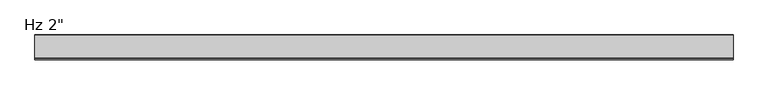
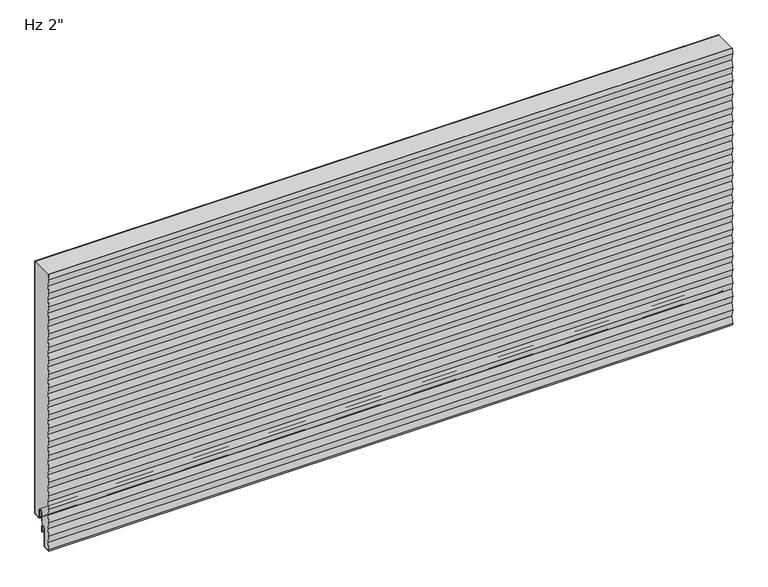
"""IFC4 building model written with IfcOpenShell, lengths in millimetres: plate geometry."""

import ifcopenshell
import ifcopenshell.guid

model = None  # the IFC model being written
_history = None  # IfcOwnerHistory: only IFC2X3 demands one
_inside = {}  # id of a spatial element -> (the spatial element, [elements in it])
_under = {}  # id of a project, library or spatial element -> (it, [spatial elements below it])
_declared = {}  # id of a project -> (the project, [libraries it declares])
_typed = {}  # id of a type object -> (the type object, [elements of that type])
_made_of = {}  # id of a material, layer set ... -> (it, [elements and type objects made of it])


def new_model(schema):
    """Start an empty IFC model of exactly this schema.

    Asked for "IFC4X3", IfcOpenShell would pick the latest addendum, in which some entities
    have other attributes; the version numbers below select the first issue.
    IFC2X3 requires an IfcOwnerHistory on every rooted entity: one is made here for all.
    """
    global model, _history
    if schema == "IFC4X3":
        model = ifcopenshell.file(schema_version=(4, 3, 0, 0))
    else:
        model = ifcopenshell.file(schema=schema)
    _inside.clear()
    _under.clear()
    _declared.clear()
    _typed.clear()
    _made_of.clear()
    _history = None
    if model.schema == "IFC2X3":
        org = make("IfcOrganization", Name="unknown")
        user = make(
            "IfcPersonAndOrganization",
            ThePerson=make("IfcPerson", FamilyName="unknown"),
            TheOrganization=org,
        )
        app = make(
            "IfcApplication",
            ApplicationDeveloper=org,
            Version="unknown",
            ApplicationFullName="unknown",
            ApplicationIdentifier="unknown",
        )
        _history = make(
            "IfcOwnerHistory",
            OwningUser=user,
            OwningApplication=app,
            ChangeAction="ADDED",
            CreationDate=0,
        )
    return model


def make(cls, **values):
    """One entity of the class cls with the attributes given. An attribute that is None is left unset."""
    return model.create_entity(
        cls, **{name: value for name, value in values.items() if value is not None}
    )


def rooted(cls, **values):
    """An entity with a GlobalId (a new one), such as an element, a storey or a relation."""
    return make(cls, GlobalId=ifcopenshell.guid.new(), OwnerHistory=_history, **values)


def si_unit(unit_type, name, prefix=None):
    """IfcSIUnit, for example si_unit("LENGTHUNIT", "METRE", prefix="MILLI")."""
    return make("IfcSIUnit", UnitType=unit_type, Prefix=prefix, Name=name)


def assignment(units):
    """IfcUnitAssignment: the units of a project."""
    return None if units is None else make("IfcUnitAssignment", Units=units)


def point(xyz):
    """IfcCartesianPoint."""
    return None if xyz is None else make("IfcCartesianPoint", Coordinates=xyz)


def direction(xyz):
    """IfcDirection."""
    return None if xyz is None else make("IfcDirection", DirectionRatios=xyz)


def frame(location, z_axis=None, x_axis=None):
    """IfcAxis2Placement3D, a coordinate frame: its origin and axes. An axis left out is left unset."""
    return make(
        "IfcAxis2Placement3D",
        Location=point(location),
        Axis=direction(z_axis),
        RefDirection=direction(x_axis),
    )


def frame_2d(location, x_axis=None):
    """IfcAxis2Placement2D, a coordinate frame in the plane: its origin and x axis."""
    return make(
        "IfcAxis2Placement2D", Location=point(location), RefDirection=direction(x_axis)
    )


def origin():
    """The frame at (0, 0, 0) with its axes left unset."""
    return frame((0.0, 0.0, 0.0))


def place(relative_to, where):
    """IfcLocalPlacement: puts the frame where relative to a parent placement (None: the world)."""
    return make(
        "IfcLocalPlacement", PlacementRelTo=relative_to, RelativePlacement=where
    )


def context(
    kind, dimensions, precision=None, world=None, true_north=None, identifier=None
):
    """IfcGeometricRepresentationContext, for example the 3D "Model" context."""
    return make(
        "IfcGeometricRepresentationContext",
        ContextIdentifier=identifier,
        ContextType=kind,
        CoordinateSpaceDimension=dimensions,
        Precision=precision,
        WorldCoordinateSystem=world,
        TrueNorth=true_north,
    )


def project(units=None, contexts=None):
    """IfcProject with its units and contexts."""
    return rooted(
        "IfcProject",
        Name="project",
        RepresentationContexts=contexts,
        UnitsInContext=assignment(units),
    )


def spatial(cls, under=None, at=None, **own):
    """A site, building, storey or space (cls), placed at a placement, below another one or the project."""
    s = rooted(cls, ObjectPlacement=at, **own)
    if under is not None:
        _under.setdefault(under.id(), (under, []))[1].append(s)
    return s


def polyline(points):
    """IfcPolyline through the points."""
    return make("IfcPolyline", Points=[point(p) for p in points])


def circle_curve(where, radius):
    """IfcCircle in the frame where."""
    return make("IfcCircle", Position=where, Radius=radius)


def trimmed(basis, trim1, trim2, sense, master):
    """IfcTrimmedCurve: the piece of a basis curve between two trims."""
    return make(
        "IfcTrimmedCurve",
        BasisCurve=basis,
        Trim1=trim1,
        Trim2=trim2,
        SenseAgreement=sense,
        MasterRepresentation=master,
    )


def segment(curve, same_sense, transition):
    """IfcCompositeCurveSegment."""
    return make(
        "IfcCompositeCurveSegment",
        Transition=transition,
        SameSense=same_sense,
        ParentCurve=curve,
    )


def composite_curve(segments, self_intersect=None):
    """IfcCompositeCurve: segments joined end to end."""
    return make("IfcCompositeCurve", Segments=segments, SelfIntersect=self_intersect)


def outline(outer, holes=None, kind="AREA"):
    """IfcArbitraryClosedProfileDef: a profile drawn as a closed curve; with holes, ...WithVoids."""
    if holes is None:
        return make("IfcArbitraryClosedProfileDef", ProfileType=kind, OuterCurve=outer)
    return make(
        "IfcArbitraryProfileDefWithVoids",
        ProfileType=kind,
        OuterCurve=outer,
        InnerCurves=holes,
    )


def extrude(swept, where, along, depth):
    """IfcExtrudedAreaSolid: the profile swept, set in the frame where, extruded along a direction by depth."""
    return make(
        "IfcExtrudedAreaSolid",
        SweptArea=swept,
        Position=where,
        ExtrudedDirection=direction(along),
        Depth=depth,
    )


def shape(context_of_items, identifier, shape_type, items):
    """IfcShapeRepresentation: the items that make up one representation, for example the "Body"."""
    return make(
        "IfcShapeRepresentation",
        ContextOfItems=context_of_items,
        RepresentationIdentifier=identifier,
        RepresentationType=shape_type,
        Items=items,
    )


def source(mapping_origin, context_of_items, identifier, shape_type, items):
    """IfcRepresentationMap: a shape defined once, which mapped items show again and again."""
    return make(
        "IfcRepresentationMap",
        MappingOrigin=mapping_origin,
        MappedRepresentation=shape(context_of_items, identifier, shape_type, items),
    )


def transform(
    local_origin,
    x_axis=None,
    y_axis=None,
    z_axis=None,
    scale=None,
    scale2=None,
    scale3=None,
    uniform=True,
):
    """IfcCartesianTransformationOperator3D, or its non-uniform kind. x_axis, y_axis, z_axis: its Axis1, 2, 3."""
    if uniform:
        return make(
            "IfcCartesianTransformationOperator3D",
            Axis1=direction(x_axis),
            Axis2=direction(y_axis),
            LocalOrigin=point(local_origin),
            Scale=scale,
            Axis3=direction(z_axis),
        )
    return make(
        "IfcCartesianTransformationOperator3DnonUniform",
        Axis1=direction(x_axis),
        Axis2=direction(y_axis),
        LocalOrigin=point(local_origin),
        Scale=scale,
        Axis3=direction(z_axis),
        Scale2=scale2,
        Scale3=scale3,
    )


def mapped(mapping_source, mapping_target):
    """IfcMappedItem: shows the shape of a source again, moved by a transform."""
    return make(
        "IfcMappedItem", MappingSource=mapping_source, MappingTarget=mapping_target
    )


def made_of(thing, what):
    """Note that an element or type object is made of a material, layer set ...; save() writes the relation."""
    if what is not None:
        _made_of.setdefault(what.id(), (what, []))[1].append(thing)
    return thing


def element(
    cls,
    number,
    at=None,
    inside=None,
    cuts=None,
    type_object=None,
    material=None,
    context=None,
    identifier="Body",
    shape_type=None,
    held_by="IfcProductDefinitionShape",
    body=None,
    shapes=None,
    **own,
):
    """One element of the class cls, such as IfcWall. Its Tag is "e" and its number.

    at: its placement. inside: the storey or other place that contains it. cuts: it is an
    opening in that element (IfcRelVoidsElement). A single representation is given by context,
    identifier, shape_type and body (its items); several are given by shapes. held_by: the class
    of the entity that holds the representations. save() writes the other relations.
    """
    e = rooted(cls, Tag="e%d" % number, ObjectPlacement=at, **own)
    if body is not None:
        shapes = [shape(context, identifier, shape_type, body)]
    if shapes is not None:
        e.Representation = make(held_by, Representations=shapes)
    if inside is not None:
        _inside.setdefault(inside.id(), (inside, []))[1].append(e)
    if cuts is not None:
        rooted(
            "IfcRelVoidsElement", RelatingBuildingElement=cuts, RelatedOpeningElement=e
        )
    if type_object is not None:
        _typed.setdefault(type_object.id(), (type_object, []))[1].append(e)
    return made_of(e, material)


def aggregate(whole, parts):
    """IfcRelAggregates: a whole, such as a stair, and the parts it consists of."""
    return rooted("IfcRelAggregates", RelatingObject=whole, RelatedObjects=parts)


def save(model, path):
    """Write the relations noted so far, then the file.

    IfcRelAggregates (storeys below a building ...), IfcRelContainedInSpatialStructure (elements
    in a storey), IfcRelDefinesByType, IfcRelAssociatesMaterial and IfcRelDeclares: one each for
    every whole, place, type object, material and project.
    """
    for whole, parts in _under.values():
        aggregate(whole, parts)
    for where, things in _inside.values():
        rooted(
            "IfcRelContainedInSpatialStructure",
            RelatedElements=things,
            RelatingStructure=where,
        )
    for kind, things in _typed.values():
        rooted("IfcRelDefinesByType", RelatedObjects=things, RelatingType=kind)
    for what, things in _made_of.values():
        rooted("IfcRelAssociatesMaterial", RelatedObjects=things, RelatingMaterial=what)
    for by, libraries in _declared.values():
        rooted("IfcRelDeclares", RelatingContext=by, RelatedDefinitions=libraries)
    model.write(path)


def plate_64ede34e(model_context):
    return source(origin(), model_context, "Body", "SweptSolid", [
        extrude(outline(composite_curve([segment(polyline([(-50.9378194, 560.7488175), (-49.2656302, 571.2), (-1.0, 571.2), (-1.0, 3.175)]), True, "CONTINUOUS"), segment(trimmed(circle_curve(frame_2d((-2.38125, 3.175)), 1.38125), [point((-1.0, 3.175))], [point((-2.38125, 1.79375))], False, "CARTESIAN"), True, "CONTINUOUS"), segment(polyline([(-2.38125, 1.79375), (-15.08125, 1.79375)]), True, "CONTINUOUS"), segment(trimmed(circle_curve(frame_2d((-15.08125, 3.175)), 1.38125), [point((-15.08125, 1.79375))], [point((-16.4625, 3.175))], False, "CARTESIAN"), True, "CONTINUOUS"), segment(polyline([(-16.4625, 3.175), (-16.4625, 19.05)]), True, "CONTINUOUS"), segment(trimmed(circle_curve(frame_2d((-21.43125, 19.05)), 4.96875), [point((-16.4625, 19.05))], [point((-26.4, 19.05))], True, "CARTESIAN"), True, "CONTINUOUS"), segment(polyline([(-26.4, 19.05), (-26.4, -6.9375), (-30.95625, -6.9375)]), True, "CONTINUOUS"), segment(trimmed(circle_curve(frame_2d((-30.95625, -11.90625)), 4.96875), [point((-30.95625, -6.9375))], [point((-35.925, -11.90625))], True, "CARTESIAN"), True, "CONTINUOUS"), segment(polyline([(-35.925, -11.90625), (-35.925, -50.0895546)]), True, "CONTINUOUS"), segment(trimmed(circle_curve(frame_2d((-37.30625, -50.0895546)), 1.38125), [point((-35.925, -50.0895546))], [point((-37.233961, -51.4689117))], False, "CARTESIAN"), True, "CONTINUOUS"), segment(polyline([(-37.233961, -51.4689117), (-50.4085109, -52.1593606), (-50.9378194, -48.8511825), (-48.4994194, -33.6111825), (-50.9378194, -18.3711825), (-48.4994194, -3.1311825), (-50.9378194, 12.1088175), (-48.4994194, 27.3488175), (-50.9378194, 42.5888175), (-48.4994194, 57.8288175), (-50.9378194, 73.0688175), (-48.4994194, 88.3088175), (-50.9378194, 103.5488175), (-48.4994194, 118.7888175), (-50.9378194, 134.0288175), (-48.4994194, 149.2688175), (-50.9378194, 164.5088175), (-48.4994194, 179.7488175), (-50.9378194, 194.9888175), (-48.4994194, 210.2288175), (-50.9378194, 225.4688175), (-48.4994194, 240.7088175), (-50.9378194, 255.9488175), (-48.4994194, 271.1888175), (-50.9378194, 286.4288175), (-48.4994194, 301.6688175), (-50.9378194, 316.9088175), (-48.4994194, 332.1488175), (-50.9378194, 347.3888175), (-48.4994194, 362.6288175), (-50.9378194, 377.8688175), (-48.4994194, 393.1088175), (-50.9378194, 408.3488175), (-48.4994194, 423.5888175), (-50.9378194, 438.8288175), (-48.4994194, 454.0688175), (-50.9378194, 469.3088175), (-48.4994194, 484.5488175), (-50.9378194, 499.7888175), (-48.4994194, 515.0288175), (-50.9378194, 530.2688175), (-48.4994194, 545.5088175), (-50.9378194, 560.7488175)]), True, "CONTINUOUS")], self_intersect=False)), frame((-730.0, 0.0, 0.0), z_axis=(1.0, 0.0, 0.0), x_axis=(0.0, 1.0, 0.0)), (0.0, 0.0, 1.0), 1460.0),
        extrude(outline(composite_curve([segment(polyline([(-25.4, 0.79375), (-26.4, 0.79375), (-26.4, 19.05)]), True, "CONTINUOUS"), segment(trimmed(circle_curve(frame_2d((-21.43125, 19.05)), 4.96875), [point((-26.4, 19.05))], [point((-16.4625, 19.05))], False, "CARTESIAN"), True, "CONTINUOUS"), segment(polyline([(-16.4625, 19.05), (-16.4625, 3.175)]), True, "CONTINUOUS"), segment(trimmed(circle_curve(frame_2d((-15.08125, 3.175)), 1.38125), [point((-16.4625, 3.175))], [point((-15.08125, 1.79375))], True, "CARTESIAN"), True, "CONTINUOUS"), segment(polyline([(-15.08125, 1.79375), (-2.38125, 1.79375)]), True, "CONTINUOUS"), segment(trimmed(circle_curve(frame_2d((-2.38125, 3.175)), 1.38125), [point((-2.38125, 1.79375))], [point((-1.0, 3.175))], True, "CARTESIAN"), True, "CONTINUOUS"), segment(polyline([(-1.0, 3.175), (-1.0, 571.2), (0.0, 571.2), (0.0, 3.175)]), True, "CONTINUOUS"), segment(trimmed(circle_curve(frame_2d((-2.38125, 3.175)), 2.38125), [point((0.0, 3.175))], [point((-2.38125, 0.79375))], False, "CARTESIAN"), True, "CONTINUOUS"), segment(polyline([(-2.38125, 0.79375), (-15.08125, 0.79375)]), True, "CONTINUOUS"), segment(trimmed(circle_curve(frame_2d((-15.08125, 3.175)), 2.38125), [point((-15.08125, 0.79375))], [point((-17.4625, 3.175))], False, "CARTESIAN"), True, "CONTINUOUS"), segment(polyline([(-17.4625, 3.175), (-17.4625, 19.05)]), True, "CONTINUOUS"), segment(trimmed(circle_curve(frame_2d((-21.43125, 19.05)), 3.96875), [point((-17.4625, 19.05))], [point((-25.4, 19.05))], True, "CARTESIAN"), True, "CONTINUOUS"), segment(polyline([(-25.4, 19.05), (-25.4, 0.79375)]), True, "CONTINUOUS")], self_intersect=False)), frame((-730.0, 0.0, 0.0), z_axis=(1.0, 0.0, 0.0), x_axis=(0.0, 1.0, 0.0)), (0.0, 0.0, 1.0), 1460.0),
        extrude(outline(composite_curve([segment(trimmed(circle_curve(frame_2d((-26.19375, -23.2314549)), 0.79375), [point((-25.4, -23.2314549))], [point((-26.9875, -23.2314549))], False, "CARTESIAN"), True, "CONTINUOUS"), segment(polyline([(-26.9875, -23.2314549), (-26.9875, -11.9205174)]), True, "CONTINUOUS"), segment(trimmed(circle_curve(frame_2d((-30.95625, -11.9205174)), 3.96875), [point((-26.9875, -11.9205174))], [point((-34.925, -11.9205174))], True, "CARTESIAN"), True, "CONTINUOUS"), segment(polyline([(-34.925, -11.9205174), (-34.925, -50.1038221)]), True, "CONTINUOUS"), segment(trimmed(circle_curve(frame_2d((-37.30625, -50.1038221)), 2.38125), [point((-34.925, -50.1038221))], [point((-37.181625, -52.4818086))], False, "CARTESIAN"), True, "CONTINUOUS"), segment(polyline([(-37.181625, -52.4818086), (-51.3543553, -53.22457), (-52.0509395, -48.8709186), (-49.6125395, -33.6309186), (-52.0509395, -18.3909186), (-49.6125395, -3.1509186), (-52.0509395, 12.0890814), (-49.6125395, 27.3290814), (-52.0509395, 42.5690814), (-49.6125395, 57.8090814), (-52.0509395, 73.0490814), (-49.6125395, 88.2890814), (-52.0509395, 103.5290814), (-49.6125395, 118.7690814), (-52.0509395, 134.0090814), (-49.6125395, 149.2490814), (-52.0509395, 164.4890814), (-49.6125395, 179.7290814), (-52.0509395, 194.9690814), (-49.6125395, 210.2090814), (-52.0509395, 225.4490814), (-49.6125395, 240.6890814), (-52.0509395, 255.9290814), (-49.6125395, 271.1690814), (-52.0509395, 286.4090814), (-49.6125395, 301.6490814), (-52.0509395, 316.8890814), (-49.6125395, 332.1290814), (-52.0509395, 347.3690814), (-49.6125395, 362.6090814), (-52.0509395, 377.8490814), (-49.6125395, 393.0890814), (-52.0509395, 408.3290814), (-49.6125395, 423.5690814), (-52.0509395, 438.8090814), (-49.6125395, 454.0490814), (-52.0509395, 469.2890814), (-49.6125395, 484.5290814), (-52.0509395, 499.7690814), (-49.6125395, 515.0090814), (-52.0509395, 530.2490814), (-49.6125395, 545.4890814), (-52.0509395, 560.7290814), (-50.3755925, 571.2), (-49.3628734, 571.2), (-51.0382204, 560.7290814), (-48.5998204, 545.4890814), (-51.0382204, 530.2490814), (-48.5998204, 515.0090814), (-51.0382204, 499.7690814), (-48.5998204, 484.5290814), (-51.0382204, 469.2890814), (-48.5998204, 454.0490814), (-51.0382204, 438.8090814), (-48.5998204, 423.5690814), (-51.0382204, 408.3290814), (-48.5998204, 393.0890814), (-51.0382204, 377.8490814), (-48.5998204, 362.6090814), (-51.0382204, 347.3690814), (-48.5998204, 332.1290814), (-51.0382204, 316.8890814), (-48.5998204, 301.6490814), (-51.0382204, 286.4090814), (-48.5998204, 271.1690814), (-51.0382204, 255.9290814), (-48.5998204, 240.6890814), (-51.0382204, 225.4490814), (-48.5998204, 210.2090814), (-51.0382204, 194.9690814), (-48.5998204, 179.7290814), (-51.0382204, 164.4890814), (-48.5998204, 149.2490814), (-51.0382204, 134.0090814), (-48.5998204, 118.7690814), (-51.0382204, 103.5290814), (-48.5998204, 88.2890814), (-51.0382204, 73.0490814), (-48.5998204, 57.8090814), (-51.0382204, 42.5690814), (-48.5998204, 27.3290814), (-51.0382204, 12.0890814), (-48.5998204, -3.1509186), (-51.0382204, -18.3909186), (-48.5998204, -33.6309186), (-51.0382204, -48.8709186), (-50.5089447, -52.1788915), (-37.233961, -51.4831791)]), True, "CONTINUOUS"), segment(trimmed(circle_curve(frame_2d((-37.30625, -50.1038221)), 1.38125), [point((-37.233961, -51.4831791))], [point((-35.925, -50.1038221))], True, "CARTESIAN"), True, "CONTINUOUS"), segment(polyline([(-35.925, -50.1038221), (-35.925, -11.9205174)]), True, "CONTINUOUS"), segment(trimmed(circle_curve(frame_2d((-30.95625, -11.9205174)), 4.96875), [point((-35.925, -11.9205174))], [point((-25.9875, -11.9205174))], False, "CARTESIAN"), True, "CONTINUOUS"), segment(polyline([(-25.9875, -11.9205174), (-26.19375, -13.5080174), (-25.4, -13.5080174), (-25.4, -23.2314549)]), True, "CONTINUOUS")], self_intersect=False)), frame((-730.0, 0.0, 0.0), z_axis=(1.0, 0.0, 0.0), x_axis=(0.0, 1.0, 0.0)), (0.0, 0.0, 1.0), 1460.0),
    ])


if __name__ == "__main__":
    model = new_model("IFC4")
    model_context = context("Model", 3, world=origin())
    ifc_project = project(units=[si_unit("LENGTHUNIT", "METRE", prefix="MILLI")], contexts=[model_context])
    site = spatial("IfcSite", under=ifc_project)
    building = spatial("IfcBuilding", under=site)
    placement = place(None, origin())
    plate_shape = plate_64ede34e(model_context)
    element("IfcPlate", 1, ObjectType="KIP-36-DWHR-R19-CP-Hz-S : Hz 2\"", at=placement, inside=building, context=model_context, shape_type="MappedRepresentation", body=[
        mapped(plate_shape, transform((0.0, 0.0, 0.0), x_axis=(1.0, 0.0, 0.0), y_axis=(0.0, 1.0, 0.0), z_axis=(0.0, 0.0, 1.0))),
    ])
    save(model, "model.ifc")
